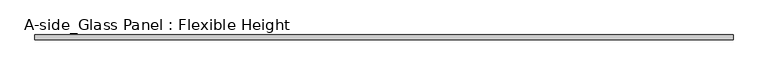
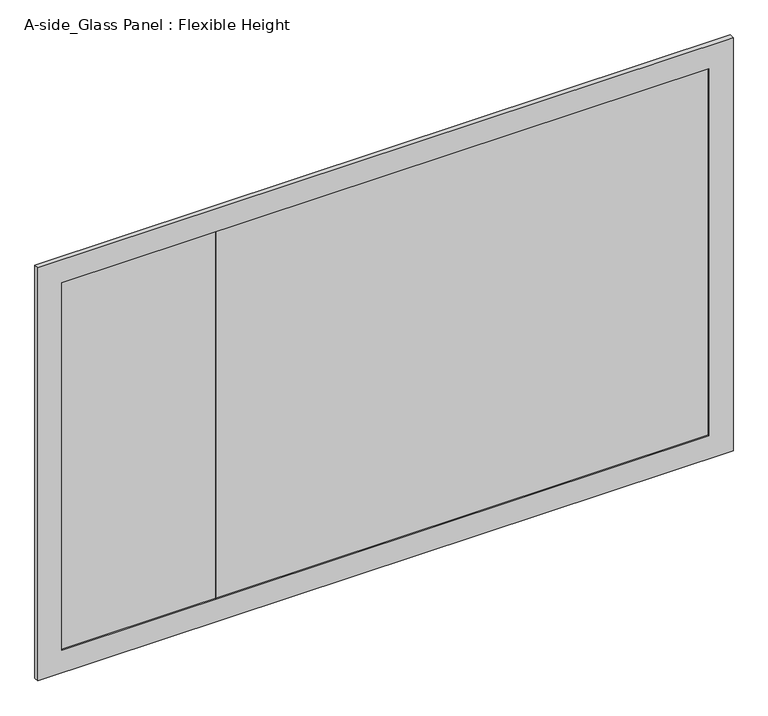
"""IFC4 building model written with IfcOpenShell, lengths in millimetres: proxy geometry, A-side_Glass Panel : Flexible Height."""

from ifc_helpers import new_model, si_unit, frame, origin, place, context, project, spatial, polyline, outline, extrude, source, transform, mapped, element, save


def a_side_glass_panel_flexible_height_8747b029(model_context):
    return source(origin(), model_context, "Body", "SweptSolid", [
        extrude(outline(polyline([(1390.0, 13.0), (370.0, 13.0), (370.0, 17.0), (1390.0, 17.0), (1390.0, 13.0)])), frame((0.0, 0.0, 50.0), z_axis=(0.0, 0.0, 1.0), x_axis=(1.0, 0.0, 0.0)), (0.0, 0.0, 1.0), 804.0),
        extrude(outline(polyline([(370.0, 13.0), (50.0, 13.0), (50.0, 17.0), (370.0, 17.0), (370.0, 13.0)])), frame((0.0, 0.0, 50.0), z_axis=(0.0, 0.0, 1.0), x_axis=(1.0, 0.0, 0.0)), (0.0, 0.0, 1.0), 804.0),
        extrude(outline(polyline([(904.0, 0.0), (0.0, 0.0), (0.0, 1440.0), (904.0, 1440.0), (904.0, 0.0)]), holes=[polyline([(854.0, 50.0), (854.0, 1390.0), (50.0, 1390.0), (50.0, 50.0), (854.0, 50.0)])]), frame((0.0, 10.0, 0.0), z_axis=(0.0, 1.0, 0.0), x_axis=(0.0, 0.0, 1.0)), (0.0, 0.0, 1.0), 10.0),
    ])


if __name__ == "__main__":
    model = new_model("IFC4")
    model_context = context("Model", 3, world=origin())
    ifc_project = project(units=[si_unit("LENGTHUNIT", "METRE", prefix="MILLI")], contexts=[model_context])
    site = spatial("IfcSite", under=ifc_project)
    building = spatial("IfcBuilding", under=site)
    placement = place(None, origin())
    a_side_glass_panel_flexible_height_shape = a_side_glass_panel_flexible_height_8747b029(model_context)
    element("IfcBuildingElementProxy", 1, Name="A-side_Glass Panel : Flexible Height", ObjectType="A-side_Glass Panel : Flexible Height", at=placement, inside=building, context=model_context, shape_type="MappedRepresentation", body=[
        mapped(a_side_glass_panel_flexible_height_shape, transform((0.0, 0.0, 0.0), x_axis=(1.0, 0.0, 0.0), y_axis=(0.0, 1.0, 0.0), z_axis=(0.0, 0.0, 1.0))),
    ])
    save(model, "model.ifc")
